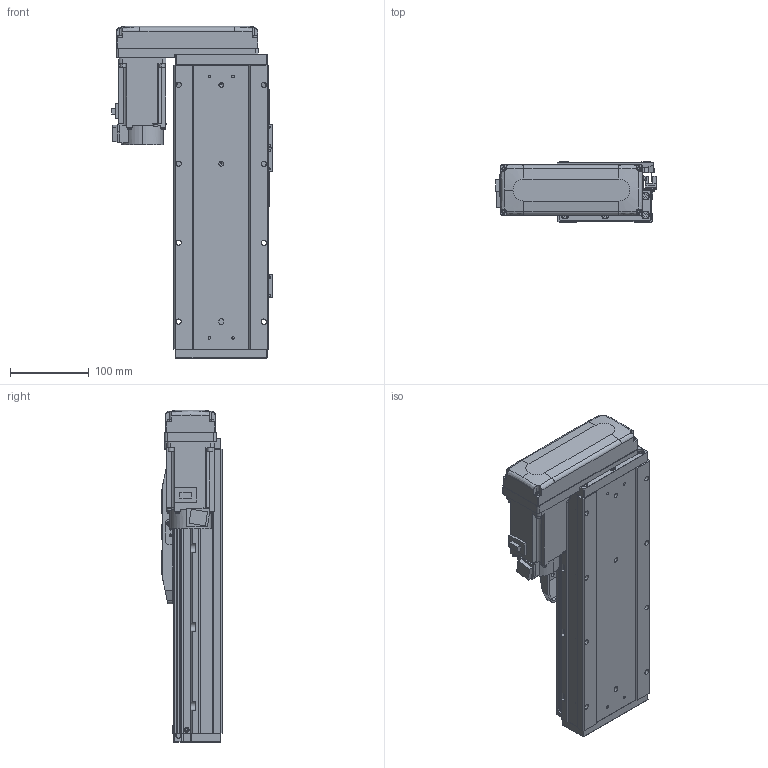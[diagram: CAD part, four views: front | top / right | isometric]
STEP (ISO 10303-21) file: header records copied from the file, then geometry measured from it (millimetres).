
FILE_DESCRIPTION (( 'STEP AP203' ), '1' );
FILE_NAME ('GTH12-150-BR-M40-C4.step', '2025-07-16T03:43:50', ( '' ), ( '' ), 'SwSTEP 2.0', 'SolidWorks 2023', '' );
FILE_SCHEMA (( 'CONFIG_CONTROL_DESIGN' ));
Length unit declared in the file: millimetre
Products named in the file (18): GTH80-022; GTH120-006; GTH50-024; GTH120-004; GBT 70.1-M3×6; BTH-M3X5X6; GTH80-028; GBT 70.1-M5×16; GBT96.1-2002 3×0.8; GTH120-003; GTH120-027-1_GTH120-027-2; CTHA86-033_M40B; GBT 70.3-M3×8; GTH120-001_150; hg-kn43j_-s100_; GTH120-013; GTH12-150-BR-M40-C4; GTH50-023
Assembly tree (59 placements, depth 2):
  GTH12-150-BR-M40-C4
    GTH120-001_150
    GTH120-003
    GTH120-006
    GTH120-004
    GTH120-013
    GBT 70.1-M3×6  x14
    GBT 70.1-M5×16  x10
    GBT 70.3-M3×8  x4
    GTH80-022
    GTH80-028  x2
    GTH50-023  x3
    GTH50-024  x3
    GBT96.1-2002 3×0.8  x6
    BTH-M3X5X6  x8
    hg-kn43j_-s100_
    CTHA86-033_M40B
    GTH120-027-1_GTH120-027-2
Bounding box: 203.5 x 76 x 420.5 mm (x, y, z)
Volume: 3595881.9 mm3; surface area: 423828.1 mm2
Topology: 61 solids, 61 shells, 2338 faces, 5417 edges, 3321 vertices
Faces by surface type: plane 1224, cylinder 654, cone 272, torus 174, sphere 8, bspline 6
Entity records: 42295 total; most frequent: CARTESIAN_POINT 7162, DIRECTION 6949, ORIENTED_EDGE 6444, EDGE_CURVE 3222, AXIS2_PLACEMENT_3D 2429, VECTOR 2091, LINE 2091, VERTEX_POINT 2042
